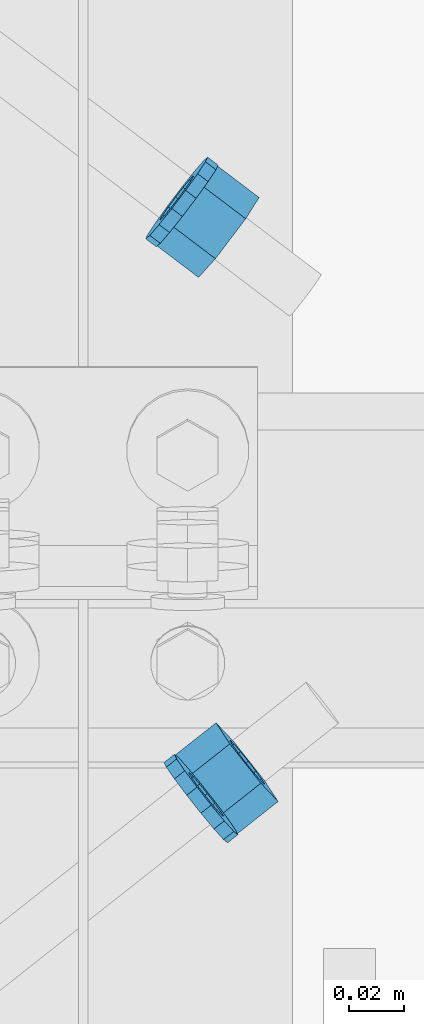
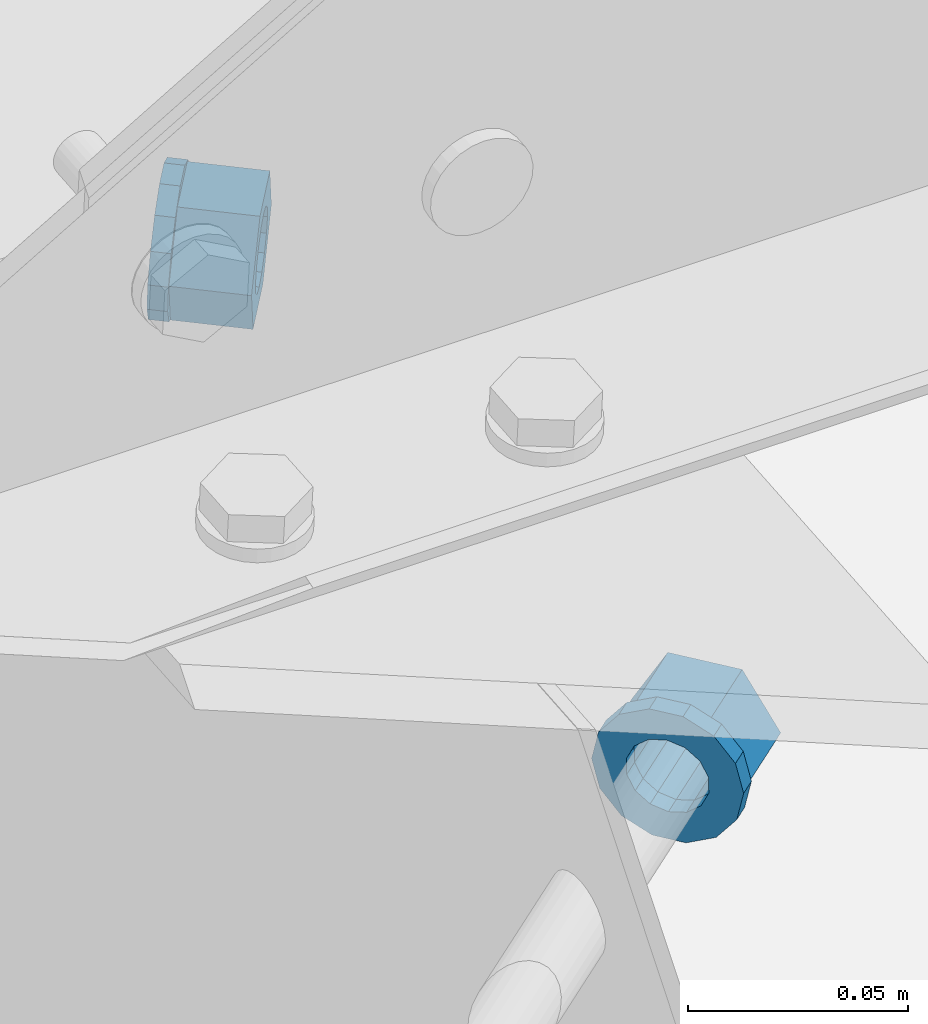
# One storey, part 44 of 185: 4 beams, 4 elements without a shape of their own.
"""IFC2X3 building model written with IfcOpenShell, lengths in millimetres."""

from ifc_helpers import new_model, si_unit, frame, origin_with_axes, place, context, subcontext, project, spatial, polyline, outline, extrude, material, type_object, element, aggregate, save


model = new_model("IFC2X3")

# Units and contexts
model_context = context("Model", 3, precision=1e-05, world=origin_with_axes())
body_context = subcontext(model_context, "Body", "Model", "MODEL_VIEW")
ifc_project = project(units=[si_unit("LENGTHUNIT", "METRE", prefix="MILLI"), si_unit("AREAUNIT", "SQUARE_METRE"), si_unit("VOLUMEUNIT", "CUBIC_METRE"), si_unit("MASSUNIT", "GRAM", prefix="KILO"), si_unit("TIMEUNIT", "SECOND"), si_unit("PLANEANGLEUNIT", "RADIAN"), si_unit("SOLIDANGLEUNIT", "STERADIAN"), si_unit("THERMODYNAMICTEMPERATUREUNIT", "DEGREE_CELSIUS"), si_unit("LUMINOUSINTENSITYUNIT", "LUMEN")], contexts=[model_context])

# Site, building, storey
site_placement = place(None, origin_with_axes())
site = spatial("IfcSite", under=ifc_project, at=site_placement, Name="Undefined", CompositionType="ELEMENT")
building_placement = place(site_placement, origin_with_axes())
building = spatial("IfcBuilding", under=site, at=building_placement, Name="Undefined", CompositionType="ELEMENT")
storey_placement = place(building_placement, origin_with_axes())
storey = spatial("IfcBuildingStorey", under=building, at=storey_placement, Name="Undefined", CompositionType="ELEMENT", Elevation=0.0)

# Assembly, beam
assembly_1_placement = place(storey_placement, origin_with_axes())
assembly_1 = element("IfcElementAssembly", 1, at=assembly_1_placement, inside=storey, Name="Steel Assembly", AssemblyPlace="NOTDEFINED", PredefinedType="RIGID_FRAME")
ifc_material = material(Name="STEEL/55")
beam_type_1 = type_object("IfcBeamType", Name="3/4_HEAVY_HEX_NUT", PredefinedType="NOTDEFINED")
beam_1_placement = place(assembly_1_placement, frame((37756.9172233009, 6730.7436851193, 6394.03713568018), z_axis=(-0.0403832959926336, 0.0299079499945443, -0.99873655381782), x_axis=(0.796162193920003, -0.602993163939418, -0.0502494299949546)))
beam_1 = element("IfcBeam", 2, at=beam_1_placement, type_object=beam_type_1, material=ifc_material, Name="3/4 H HEX NUT A563", ObjectType="3/4_HEAVY_HEX_NUT", context=body_context, shape_type="SweptSolid", body=[
    extrude(outline(polyline([(9.13000011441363, -15.810000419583), (-9.13000011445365, -15.810000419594), (-18.2600002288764, 1.54614099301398e-11), (-9.13000011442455, 15.8100004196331), (9.13000011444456, 15.8100004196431), (18.2600002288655, 3.36513039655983e-11), (9.13000011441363, -15.810000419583)]), holes=[polyline([(-8.06850066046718, 6.43441456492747), (-10.061255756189, 2.29641597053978), (-10.0612557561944, -2.29641597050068), (-8.06850066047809, -6.43441456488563), (-4.47768005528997, -9.29799844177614), (-1.09139364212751e-11, -10.3199996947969), (4.47768005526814, -9.29799844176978), (8.0685006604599, -6.43441456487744), (10.0612557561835, -2.29641597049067), (10.0612557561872, 2.2964159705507), (8.06850066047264, 6.43441456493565), (4.47768005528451, 9.29799844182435), (7.27595761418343e-12, 10.319999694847), (-4.47768005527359, 9.2979984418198), (-8.06850066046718, 6.43441456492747)])]), frame((19.0500000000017, 0.0, 2.58175642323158e-19), z_axis=(-1.0, 0.0, 0.0), x_axis=(0.0, -1.0, 0.0)), (0.0, 0.0, 1.0), 19.0),
])
aggregate(assembly_1, [beam_1])

assembly_2_placement = place(storey_placement, origin_with_axes())
assembly_2 = element("IfcElementAssembly", 3, at=assembly_2_placement, inside=storey, Name="Steel Assembly", AssemblyPlace="NOTDEFINED", PredefinedType="RIGID_FRAME")
beam_2_placement = place(assembly_2_placement, frame((37763.806485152, 6516.37917163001, 6376.17342289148), z_axis=(-0.0401210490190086, -0.0323727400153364, 0.99867026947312), x_axis=(0.784015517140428, 0.618597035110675, 0.0515497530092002)))
beam_2 = element("IfcBeam", 4, at=beam_2_placement, type_object=beam_type_1, material=ifc_material, Name="3/4 H HEX NUT A563", ObjectType="3/4_HEAVY_HEX_NUT", context=body_context, shape_type="SweptSolid", body=[
    extrude(outline(polyline([(9.13000011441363, -15.810000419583), (-9.13000011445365, -15.810000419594), (-18.2600002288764, 1.54614099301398e-11), (-9.13000011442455, 15.8100004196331), (9.13000011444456, 15.8100004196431), (18.2600002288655, 3.36513039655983e-11), (9.13000011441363, -15.810000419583)]), holes=[polyline([(-8.06850066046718, 6.43441456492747), (-10.061255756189, 2.29641597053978), (-10.0612557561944, -2.29641597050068), (-8.06850066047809, -6.43441456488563), (-4.47768005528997, -9.29799844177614), (-1.09139364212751e-11, -10.3199996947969), (4.47768005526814, -9.29799844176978), (8.0685006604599, -6.43441456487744), (10.0612557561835, -2.29641597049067), (10.0612557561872, 2.2964159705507), (8.06850066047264, 6.43441456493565), (4.47768005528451, 9.29799844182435), (7.27595761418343e-12, 10.319999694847), (-4.47768005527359, 9.2979984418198), (-8.06850066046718, 6.43441456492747)])]), frame((19.0500000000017, 0.0, 2.58175642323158e-19), z_axis=(-1.0, 0.0, 0.0), x_axis=(0.0, -1.0, 0.0)), (0.0, 0.0, 1.0), 19.1),
])
aggregate(assembly_2, [beam_2])

assembly_3_placement = place(storey_placement, origin_with_axes())
assembly_3 = element("IfcElementAssembly", 5, at=assembly_3_placement, inside=storey, Name="Steel Assembly", AssemblyPlace="NOTDEFINED", PredefinedType="RIGID_FRAME")
beam_type_2 = type_object("IfcBeamType", Name="3/4_WASHER", PredefinedType="NOTDEFINED")
beam_3_placement = place(assembly_3_placement, frame((37753.1255008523, 6733.61544006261, 6394.27644859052), z_axis=(-0.0403832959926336, 0.0299079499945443, -0.99873655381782), x_axis=(0.796162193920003, -0.602993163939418, -0.0502494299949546)))
beam_3 = element("IfcBeam", 6, at=beam_3_placement, type_object=beam_type_2, material=ifc_material, Name="3/4 WASHER F844", ObjectType="3/4_WASHER", context=body_context, shape_type="SweptSolid", body=[
    extrude(outline(polyline([(-11.6280845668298, -14.5811568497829), (-16.8030690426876, -8.09193156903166), (-18.649999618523, -4.54747350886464e-12), (-16.8030690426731, 8.09193156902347), (-11.6280845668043, 14.5811568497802), (-4.15001533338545, 18.1824051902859), (4.15001533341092, 18.1824051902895), (11.628084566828, 14.5811568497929), (16.8030690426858, 8.09193156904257), (18.6499996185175, 1.45519152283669e-11), (16.8030690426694, -8.09193156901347), (11.6280845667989, -14.5811568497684), (4.15001533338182, -18.182405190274), (-4.15001533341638, -18.1824051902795), (-11.6280845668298, -14.5811568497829)]), holes=[polyline([(-8.06850066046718, 6.43441456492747), (-10.061255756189, 2.29641597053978), (-10.0612557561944, -2.29641597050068), (-8.06850066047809, -6.43441456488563), (-4.47768005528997, -9.29799844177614), (-1.09139364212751e-11, -10.3199996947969), (4.47768005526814, -9.29799844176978), (8.0685006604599, -6.43441456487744), (10.0612557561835, -2.29641597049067), (10.0612557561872, 2.2964159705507), (8.06850066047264, 6.43441456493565), (4.47768005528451, 9.29799844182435), (7.27595761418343e-12, 10.319999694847), (-4.47768005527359, 9.2979984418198), (-8.06850066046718, 6.43441456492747)])]), frame((4.76250000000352, 2.6437185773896e-16, 5.6843418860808e-14), z_axis=(-1.0, 0.0, 0.0), x_axis=(0.0, -1.0, 0.0)), (0.0, 0.0, 1.0), 4.8),
])
aggregate(assembly_3, [beam_3])

assembly_4_placement = place(storey_placement, origin_with_axes())
assembly_4 = element("IfcElementAssembly", 7, at=assembly_4_placement, inside=storey, Name="Steel Assembly", AssemblyPlace="NOTDEFINED", PredefinedType="RIGID_FRAME")
beam_4_placement = place(assembly_4_placement, frame((37760.0726112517, 6513.43310325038, 6375.92791719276), z_axis=(-0.0401210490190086, -0.0323727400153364, 0.99867026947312), x_axis=(0.784015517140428, 0.618597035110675, 0.0515497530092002)))
beam_4 = element("IfcBeam", 8, at=beam_4_placement, type_object=beam_type_2, material=ifc_material, Name="3/4 WASHER F844", ObjectType="3/4_WASHER", context=body_context, shape_type="SweptSolid", body=[
    extrude(outline(polyline([(-11.6280845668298, -14.5811568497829), (-16.8030690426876, -8.09193156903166), (-18.649999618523, -4.54747350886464e-12), (-16.8030690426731, 8.09193156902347), (-11.6280845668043, 14.5811568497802), (-4.15001533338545, 18.1824051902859), (4.15001533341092, 18.1824051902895), (11.628084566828, 14.5811568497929), (16.8030690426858, 8.09193156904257), (18.6499996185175, 1.45519152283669e-11), (16.8030690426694, -8.09193156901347), (11.6280845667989, -14.5811568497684), (4.15001533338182, -18.182405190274), (-4.15001533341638, -18.1824051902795), (-11.6280845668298, -14.5811568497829)]), holes=[polyline([(-8.06850066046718, 6.43441456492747), (-10.061255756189, 2.29641597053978), (-10.0612557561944, -2.29641597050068), (-8.06850066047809, -6.43441456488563), (-4.47768005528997, -9.29799844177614), (-1.09139364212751e-11, -10.3199996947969), (4.47768005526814, -9.29799844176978), (8.0685006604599, -6.43441456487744), (10.0612557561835, -2.29641597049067), (10.0612557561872, 2.2964159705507), (8.06850066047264, 6.43441456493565), (4.47768005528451, 9.29799844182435), (7.27595761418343e-12, 10.319999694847), (-4.47768005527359, 9.2979984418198), (-8.06850066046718, 6.43441456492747)])]), frame((4.76250000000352, 2.6437185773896e-16, 5.6843418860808e-14), z_axis=(-1.0, 0.0, 0.0), x_axis=(0.0, -1.0, 0.0)), (0.0, 0.0, 1.0), 4.8),
])
aggregate(assembly_4, [beam_4])

save(model, "model.ifc")
